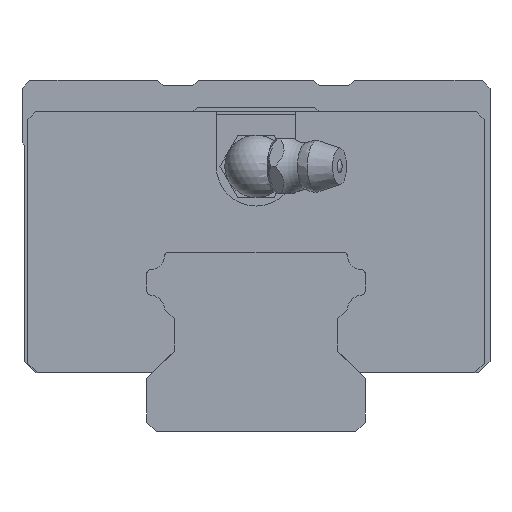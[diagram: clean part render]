
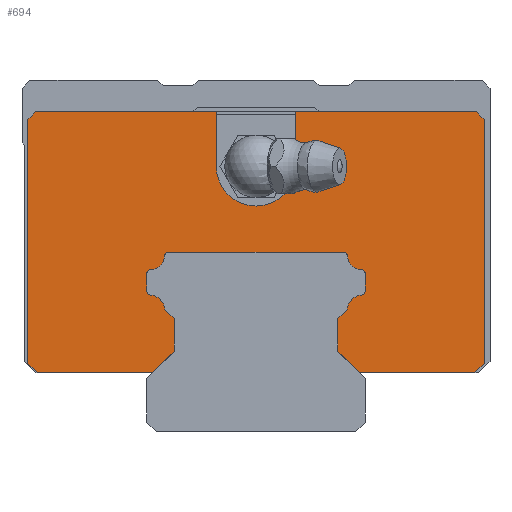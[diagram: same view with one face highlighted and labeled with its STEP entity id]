
A CAD part, front view. The second image highlights one B-rep face of the part: STEP entity #694.
In plain terms, the highlighted planar face has unit normal (0, -1, 0).
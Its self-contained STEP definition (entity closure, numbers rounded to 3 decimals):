
#573=CIRCLE('',#3622,5.1);
#574=CIRCLE('',#3623,2.);
#575=CIRCLE('',#3624,0.5);
#576=CIRCLE('',#3625,0.5);
#577=CIRCLE('',#3626,2.);
#578=CIRCLE('',#3627,0.5);
#579=CIRCLE('',#3628,0.5);
#580=CIRCLE('',#3629,2.);
#581=CIRCLE('',#3630,0.5);
#582=CIRCLE('',#3631,0.5);
#583=CIRCLE('',#3632,2.);
#694=ADVANCED_FACE('',(#984),#863,.F.);
#863=PLANE('',#3633);
#984=FACE_OUTER_BOUND('',#1143,.T.);
#1143=EDGE_LOOP('',(#1517,#1518,#1519,#1520,#1521,#1522,#1523,#1524,#1525,
#1526,#1527,#1528,#1529,#1530,#1531,#1532,#1533,#1534,#1535,#1536,#1537,
#1538,#1539,#1540,#1541,#1542,#1543,#1544,#1545,#1546,#1547,#1548));
#1517=ORIENTED_EDGE('',*,*,#2639,.F.);
#1518=ORIENTED_EDGE('',*,*,#2640,.T.);
#1519=ORIENTED_EDGE('',*,*,#2641,.T.);
#1520=ORIENTED_EDGE('',*,*,#2642,.T.);
#1521=ORIENTED_EDGE('',*,*,#2643,.T.);
#1522=ORIENTED_EDGE('',*,*,#2644,.T.);
#1523=ORIENTED_EDGE('',*,*,#2645,.F.);
#1524=ORIENTED_EDGE('',*,*,#2646,.F.);
#1525=ORIENTED_EDGE('',*,*,#2647,.F.);
#1526=ORIENTED_EDGE('',*,*,#2648,.T.);
#1527=ORIENTED_EDGE('',*,*,#2649,.T.);
#1528=ORIENTED_EDGE('',*,*,#2650,.T.);
#1529=ORIENTED_EDGE('',*,*,#2651,.T.);
#1530=ORIENTED_EDGE('',*,*,#2652,.T.);
#1531=ORIENTED_EDGE('',*,*,#2653,.F.);
#1532=ORIENTED_EDGE('',*,*,#2654,.F.);
#1533=ORIENTED_EDGE('',*,*,#2655,.F.);
#1534=ORIENTED_EDGE('',*,*,#2656,.F.);
#1535=ORIENTED_EDGE('',*,*,#2657,.F.);
#1536=ORIENTED_EDGE('',*,*,#2658,.F.);
#1537=ORIENTED_EDGE('',*,*,#2659,.F.);
#1538=ORIENTED_EDGE('',*,*,#2660,.F.);
#1539=ORIENTED_EDGE('',*,*,#2661,.F.);
#1540=ORIENTED_EDGE('',*,*,#2662,.F.);
#1541=ORIENTED_EDGE('',*,*,#2663,.F.);
#1542=ORIENTED_EDGE('',*,*,#2664,.F.);
#1543=ORIENTED_EDGE('',*,*,#2665,.F.);
#1544=ORIENTED_EDGE('',*,*,#2666,.F.);
#1545=ORIENTED_EDGE('',*,*,#2667,.F.);
#1546=ORIENTED_EDGE('',*,*,#2668,.F.);
#1547=ORIENTED_EDGE('',*,*,#2669,.F.);
#1548=ORIENTED_EDGE('',*,*,#2670,.F.);
#2291=VERTEX_POINT('',#4955);
#2292=VERTEX_POINT('',#4956);
#2293=VERTEX_POINT('',#4958);
#2294=VERTEX_POINT('',#4960);
#2295=VERTEX_POINT('',#4962);
#2296=VERTEX_POINT('',#4964);
#2297=VERTEX_POINT('',#4966);
#2298=VERTEX_POINT('',#4968);
#2299=VERTEX_POINT('',#4970);
#2300=VERTEX_POINT('',#4972);
#2301=VERTEX_POINT('',#4974);
#2302=VERTEX_POINT('',#4976);
#2303=VERTEX_POINT('',#4978);
#2304=VERTEX_POINT('',#4980);
#2305=VERTEX_POINT('',#4982);
#2306=VERTEX_POINT('',#4984);
#2307=VERTEX_POINT('',#4986);
#2308=VERTEX_POINT('',#4988);
#2309=VERTEX_POINT('',#4990);
#2310=VERTEX_POINT('',#4992);
#2311=VERTEX_POINT('',#4994);
#2312=VERTEX_POINT('',#4996);
#2313=VERTEX_POINT('',#4998);
#2314=VERTEX_POINT('',#5000);
#2315=VERTEX_POINT('',#5002);
#2316=VERTEX_POINT('',#5004);
#2317=VERTEX_POINT('',#5006);
#2318=VERTEX_POINT('',#5008);
#2319=VERTEX_POINT('',#5010);
#2320=VERTEX_POINT('',#5012);
#2321=VERTEX_POINT('',#5014);
#2322=VERTEX_POINT('',#5016);
#2639=EDGE_CURVE('',#2291,#2292,#3042,.T.);
#2640=EDGE_CURVE('',#2291,#2293,#3043,.T.);
#2641=EDGE_CURVE('',#2293,#2294,#3044,.T.);
#2642=EDGE_CURVE('',#2294,#2295,#3045,.T.);
#2643=EDGE_CURVE('',#2295,#2296,#3046,.T.);
#2644=EDGE_CURVE('',#2296,#2297,#3047,.T.);
#2645=EDGE_CURVE('',#2298,#2297,#3048,.T.);
#2646=EDGE_CURVE('',#2299,#2298,#573,.T.);
#2647=EDGE_CURVE('',#2300,#2299,#3049,.T.);
#2648=EDGE_CURVE('',#2300,#2301,#3050,.T.);
#2649=EDGE_CURVE('',#2301,#2302,#3051,.T.);
#2650=EDGE_CURVE('',#2302,#2303,#3052,.T.);
#2651=EDGE_CURVE('',#2303,#2304,#3053,.T.);
#2652=EDGE_CURVE('',#2304,#2305,#3054,.T.);
#2653=EDGE_CURVE('',#2306,#2305,#3055,.T.);
#2654=EDGE_CURVE('',#2307,#2306,#3056,.T.);
#2655=EDGE_CURVE('',#2308,#2307,#3057,.T.);
#2656=EDGE_CURVE('',#2309,#2308,#574,.T.);
#2657=EDGE_CURVE('',#2310,#2309,#575,.T.);
#2658=EDGE_CURVE('',#2311,#2310,#3058,.T.);
#2659=EDGE_CURVE('',#2312,#2311,#576,.T.);
#2660=EDGE_CURVE('',#2313,#2312,#577,.T.);
#2661=EDGE_CURVE('',#2314,#2313,#578,.T.);
#2662=EDGE_CURVE('',#2315,#2314,#3059,.T.);
#2663=EDGE_CURVE('',#2316,#2315,#579,.T.);
#2664=EDGE_CURVE('',#2317,#2316,#580,.T.);
#2665=EDGE_CURVE('',#2318,#2317,#581,.T.);
#2666=EDGE_CURVE('',#2319,#2318,#3060,.T.);
#2667=EDGE_CURVE('',#2320,#2319,#582,.T.);
#2668=EDGE_CURVE('',#2321,#2320,#583,.T.);
#2669=EDGE_CURVE('',#2322,#2321,#3061,.T.);
#2670=EDGE_CURVE('',#2292,#2322,#3062,.T.);
#3042=LINE('',#4954,#3320);
#3043=LINE('',#4957,#3321);
#3044=LINE('',#4959,#3322);
#3045=LINE('',#4961,#3323);
#3046=LINE('',#4963,#3324);
#3047=LINE('',#4965,#3325);
#3048=LINE('',#4967,#3326);
#3049=LINE('',#4971,#3327);
#3050=LINE('',#4973,#3328);
#3051=LINE('',#4975,#3329);
#3052=LINE('',#4977,#3330);
#3053=LINE('',#4979,#3331);
#3054=LINE('',#4981,#3332);
#3055=LINE('',#4983,#3333);
#3056=LINE('',#4985,#3334);
#3057=LINE('',#4987,#3335);
#3058=LINE('',#4993,#3336);
#3059=LINE('',#5001,#3337);
#3060=LINE('',#5009,#3338);
#3061=LINE('',#5015,#3339);
#3062=LINE('',#5017,#3340);
#3320=VECTOR('',#4056,1.);
#3321=VECTOR('',#4057,1.);
#3322=VECTOR('',#4058,1.);
#3323=VECTOR('',#4059,1.);
#3324=VECTOR('',#4060,1.);
#3325=VECTOR('',#4061,1.);
#3326=VECTOR('',#4062,1.);
#3327=VECTOR('',#4065,1.);
#3328=VECTOR('',#4066,1.);
#3329=VECTOR('',#4067,1.);
#3330=VECTOR('',#4068,1.);
#3331=VECTOR('',#4069,1.);
#3332=VECTOR('',#4070,1.);
#3333=VECTOR('',#4071,1.);
#3334=VECTOR('',#4072,1.);
#3335=VECTOR('',#4073,1.);
#3336=VECTOR('',#4078,1.);
#3337=VECTOR('',#4085,1.);
#3338=VECTOR('',#4092,1.);
#3339=VECTOR('',#4097,1.);
#3340=VECTOR('',#4098,1.);
#3622=AXIS2_PLACEMENT_3D('',#4969,#4063,#4064);
#3623=AXIS2_PLACEMENT_3D('',#4989,#4074,#4075);
#3624=AXIS2_PLACEMENT_3D('',#4991,#4076,#4077);
#3625=AXIS2_PLACEMENT_3D('',#4995,#4079,#4080);
#3626=AXIS2_PLACEMENT_3D('',#4997,#4081,#4082);
#3627=AXIS2_PLACEMENT_3D('',#4999,#4083,#4084);
#3628=AXIS2_PLACEMENT_3D('',#5003,#4086,#4087);
#3629=AXIS2_PLACEMENT_3D('',#5005,#4088,#4089);
#3630=AXIS2_PLACEMENT_3D('',#5007,#4090,#4091);
#3631=AXIS2_PLACEMENT_3D('',#5011,#4093,#4094);
#3632=AXIS2_PLACEMENT_3D('',#5013,#4095,#4096);
#3633=AXIS2_PLACEMENT_3D('',#5018,#4099,#4100);
#4056=DIRECTION('',(-0.707,0.,0.707));
#4057=DIRECTION('',(1.,0.,0.));
#4058=DIRECTION('',(0.707,0.,0.707));
#4059=DIRECTION('',(0.,0.,1.));
#4060=DIRECTION('',(-0.707,0.,0.707));
#4061=DIRECTION('',(-1.,0.,0.));
#4062=DIRECTION('',(0.,0.,1.));
#4063=DIRECTION('',(0.,-1.,0.));
#4064=DIRECTION('',(-1.,0.,0.));
#4065=DIRECTION('',(0.,0.,-1.));
#4066=DIRECTION('',(-1.,0.,0.));
#4067=DIRECTION('',(-0.707,0.,-0.707));
#4068=DIRECTION('',(0.,0.,-1.));
#4069=DIRECTION('',(0.707,0.,-0.707));
#4070=DIRECTION('',(1.,0.,0.));
#4071=DIRECTION('',(-0.707,0.,-0.707));
#4072=DIRECTION('',(0.,0.,-1.));
#4073=DIRECTION('',(0.707,0.,-0.707));
#4074=DIRECTION('',(0.,1.,0.));
#4075=DIRECTION('',(0.,0.,1.));
#4076=DIRECTION('',(0.,-1.,0.));
#4077=DIRECTION('',(0.,0.,1.));
#4078=DIRECTION('',(0.,0.,-1.));
#4079=DIRECTION('',(0.,-1.,0.));
#4080=DIRECTION('',(0.,0.,1.));
#4081=DIRECTION('',(0.,1.,0.));
#4082=DIRECTION('',(0.,0.,1.));
#4083=DIRECTION('',(0.,-1.,0.));
#4084=DIRECTION('',(0.,0.,1.));
#4085=DIRECTION('',(-1.,0.,0.));
#4086=DIRECTION('',(0.,-1.,0.));
#4087=DIRECTION('',(0.,0.,1.));
#4088=DIRECTION('',(0.,1.,0.));
#4089=DIRECTION('',(0.,0.,1.));
#4090=DIRECTION('',(0.,-1.,0.));
#4091=DIRECTION('',(0.,0.,1.));
#4092=DIRECTION('',(0.,0.,1.));
#4093=DIRECTION('',(0.,-1.,0.));
#4094=DIRECTION('',(0.,0.,1.));
#4095=DIRECTION('',(0.,1.,0.));
#4096=DIRECTION('',(0.,0.,1.));
#4097=DIRECTION('',(0.707,0.,0.707));
#4098=DIRECTION('',(0.,0.,1.));
#4099=DIRECTION('',(0.,1.,0.));
#4100=DIRECTION('',(0.,0.,1.));
#4954=CARTESIAN_POINT('',(20.675,-26.3,0.125));
#4955=CARTESIAN_POINT('',(13.3,-26.3,7.5));
#4956=CARTESIAN_POINT('',(10.5,-26.3,10.3));
#4957=CARTESIAN_POINT('',(-28.05,-26.3,7.5));
#4958=CARTESIAN_POINT('',(28.05,-26.3,7.5));
#4959=CARTESIAN_POINT('',(28.05,-26.3,7.5));
#4960=CARTESIAN_POINT('',(29.25,-26.3,8.7));
#4961=CARTESIAN_POINT('',(29.25,-26.3,8.7));
#4962=CARTESIAN_POINT('',(29.25,-26.3,40.));
#4963=CARTESIAN_POINT('',(29.25,-26.3,40.));
#4964=CARTESIAN_POINT('',(28.25,-26.3,41.));
#4965=CARTESIAN_POINT('',(28.25,-26.3,41.));
#4966=CARTESIAN_POINT('',(5.1,-26.3,41.));
#4967=CARTESIAN_POINT('',(5.1,-26.3,34.));
#4968=CARTESIAN_POINT('',(5.1,-26.3,34.));
#4969=CARTESIAN_POINT('',(0.,-26.3,34.));
#4970=CARTESIAN_POINT('',(-5.1,-26.3,34.));
#4971=CARTESIAN_POINT('',(-5.1,-26.3,41.));
#4972=CARTESIAN_POINT('',(-5.1,-26.3,41.));
#4973=CARTESIAN_POINT('',(28.25,-26.3,41.));
#4974=CARTESIAN_POINT('',(-28.25,-26.3,41.));
#4975=CARTESIAN_POINT('',(-28.25,-26.3,41.));
#4976=CARTESIAN_POINT('',(-29.25,-26.3,40.));
#4977=CARTESIAN_POINT('',(-29.25,-26.3,40.));
#4978=CARTESIAN_POINT('',(-29.25,-26.3,8.7));
#4979=CARTESIAN_POINT('',(-29.25,-26.3,8.7));
#4980=CARTESIAN_POINT('',(-28.05,-26.3,7.5));
#4981=CARTESIAN_POINT('',(-28.05,-26.3,7.5));
#4982=CARTESIAN_POINT('',(-13.3,-26.3,7.5));
#4983=CARTESIAN_POINT('',(24.225,-26.3,45.025));
#4984=CARTESIAN_POINT('',(-10.5,-26.3,10.3));
#4985=CARTESIAN_POINT('',(-10.5,-26.3,24.35));
#4986=CARTESIAN_POINT('',(-10.5,-26.3,14.502));
#4987=CARTESIAN_POINT('',(12.276,-26.3,-8.274));
#4988=CARTESIAN_POINT('',(-11.701,-26.3,15.703));
#4989=CARTESIAN_POINT('',(-13.691,-26.3,15.502));
#4990=CARTESIAN_POINT('',(-13.536,-26.3,17.496));
#4991=CARTESIAN_POINT('',(-13.5,-26.3,17.995));
#4992=CARTESIAN_POINT('',(-14.,-26.3,17.995));
#4993=CARTESIAN_POINT('',(-14.,-26.3,24.35));
#4994=CARTESIAN_POINT('',(-14.,-26.3,20.226));
#4995=CARTESIAN_POINT('',(-13.5,-26.3,20.226));
#4996=CARTESIAN_POINT('',(-13.536,-26.3,20.725));
#4997=CARTESIAN_POINT('',(-13.691,-26.3,22.719));
#4998=CARTESIAN_POINT('',(-11.699,-26.3,22.544));
#4999=CARTESIAN_POINT('',(-11.201,-26.3,22.5));
#5000=CARTESIAN_POINT('',(-11.201,-26.3,23.));
#5001=CARTESIAN_POINT('',(44.9,-26.3,23.));
#5002=CARTESIAN_POINT('',(11.201,-26.3,23.));
#5003=CARTESIAN_POINT('',(11.201,-26.3,22.5));
#5004=CARTESIAN_POINT('',(11.699,-26.3,22.544));
#5005=CARTESIAN_POINT('',(13.691,-26.3,22.719));
#5006=CARTESIAN_POINT('',(13.536,-26.3,20.725));
#5007=CARTESIAN_POINT('',(13.5,-26.3,20.226));
#5008=CARTESIAN_POINT('',(14.,-26.3,20.226));
#5009=CARTESIAN_POINT('',(14.,-26.3,24.35));
#5010=CARTESIAN_POINT('',(14.,-26.3,17.995));
#5011=CARTESIAN_POINT('',(13.5,-26.3,17.995));
#5012=CARTESIAN_POINT('',(13.536,-26.3,17.496));
#5013=CARTESIAN_POINT('',(13.691,-26.3,15.502));
#5014=CARTESIAN_POINT('',(11.701,-26.3,15.703));
#5015=CARTESIAN_POINT('',(32.624,-26.3,36.626));
#5016=CARTESIAN_POINT('',(10.5,-26.3,14.502));
#5017=CARTESIAN_POINT('',(10.5,-26.3,24.35));
#5018=CARTESIAN_POINT('',(44.9,-26.3,24.35));
